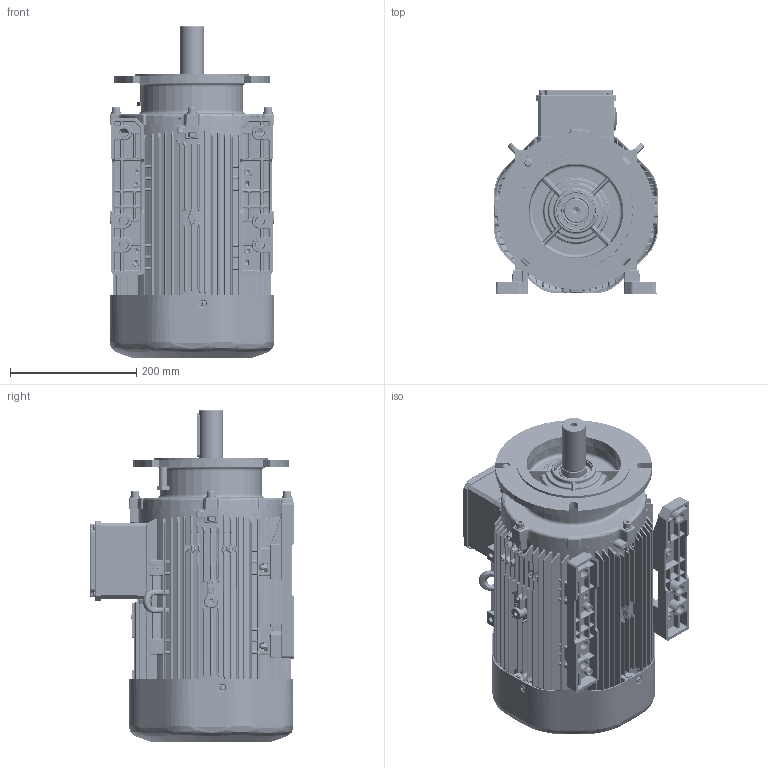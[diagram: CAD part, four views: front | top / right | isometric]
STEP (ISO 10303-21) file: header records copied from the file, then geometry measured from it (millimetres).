
FILE_DESCRIPTION(/* description */ (''),/* implementation_level */ '2;1');
FILE_NAME(/* name */ 'OUTLOOK VIEW QH132 PA B35 - REDUCED FF215 SPL.stp',/* time_stamp */ '2021-09-13T13:02:24+03:00',/* author */ (''),/* organization */ (''),/* preprocessor_version */ 'ST-DEVELOPER v16',/* originating_system */ 'SIEMENS PLM Software NX 11.0',/* authorisation */ '');
FILE_SCHEMA (('AUTOMOTIVE_DESIGN { 1 0 10303 214 3 1 1 1 }'));
Products named in the file (1): 26062CE45B9Cd671
Bounding box: 260.83 x 324.71 x 526.5 mm (x, y, z)
Volume: 4669378.8 mm3; surface area: 1910461.9 mm2
Topology: 84 solids, 86 shells, 14689 faces, 34445 edges, 19133 vertices
Faces by surface type: cylinder 5012, bspline 3929, plane 3029, sphere 1320, torus 845, cone 518, extrusion 36
Full cylindrical faces by diameter (mm): 2.5 x2, 3.5 x2, 4 x4, 4.2 x8, 5.5 x8, 5.6 x1, 6.8 x1, 8 x32, 8.028 x3, 8.477 x2, 8.478 x1, 8.5 x8, 9 x4, 10.5 x1, 12 x1, 13 x12, 15 x2, 30.4 x2, 34.4 x1, 35 x1, 37.4 x1, 37.5 x1, 38 x1, 39.4 x2, 40 x5, 40.2 x1, 40.5 x1, 42.94 x1, 44 x2, 46.5 x1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
Entity records: 477217 total; most frequent: CARTESIAN_POINT 166637, ORIENTED_EDGE 65376, DIRECTION 63361, EDGE_CURVE 32688, AXIS2_PLACEMENT_3D 25863, VERTEX_POINT 18915, EDGE_LOOP 15985, ADVANCED_FACE 14688
